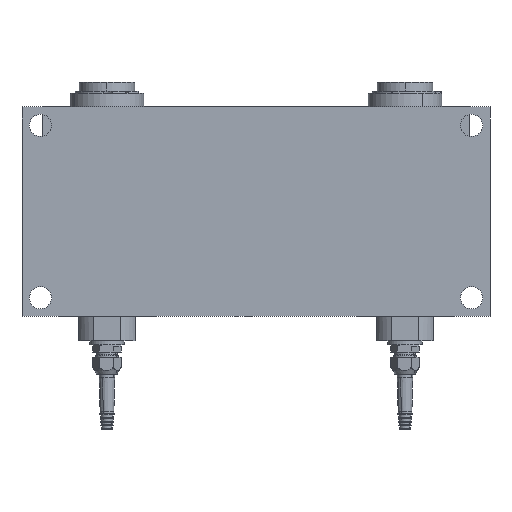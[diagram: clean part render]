
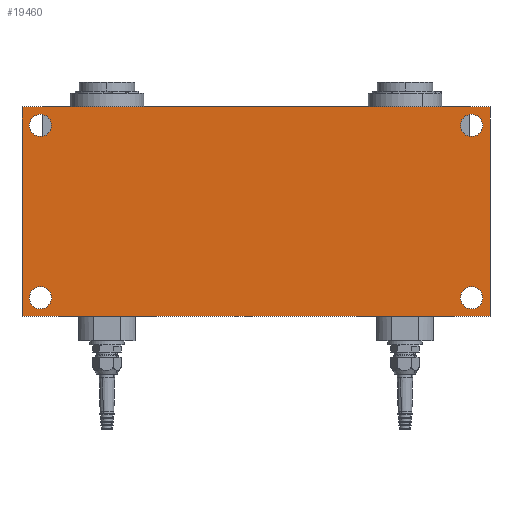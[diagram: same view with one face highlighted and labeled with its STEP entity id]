
A CAD part, front view. The second image highlights one B-rep face of the part: STEP entity #19460.
In plain terms, the highlighted planar face has unit normal (0, -1, 0).
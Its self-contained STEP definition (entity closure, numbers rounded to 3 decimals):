
#411 = EDGE_CURVE ( 'NONE', #8942, #29034, #16020, .T. ) ;
#781 = LINE ( 'NONE', #20734, #24433 ) ;
#1082 = CIRCLE ( 'NONE', #2392, 9. ) ;
#1117 = CARTESIAN_POINT ( 'NONE',  ( 175., 0., 79. ) ) ;
#1221 = DIRECTION ( 'NONE',  ( 0., 0., -1. ) ) ;
#1653 = EDGE_CURVE ( 'NONE', #22525, #22155, #29531, .T. ) ;
#1701 = CARTESIAN_POINT ( 'NONE',  ( -175., 0., -70. ) ) ;
#1737 = CARTESIAN_POINT ( 'NONE',  ( -175., 0., 70. ) ) ;
#2392 = AXIS2_PLACEMENT_3D ( 'NONE', #8078, #24110, #10362 ) ;
#3237 = EDGE_CURVE ( 'NONE', #23809, #27071, #5071, .T. ) ;
#3406 = EDGE_CURVE ( 'NONE', #13301, #10843, #781, .T. ) ;
#3579 = CARTESIAN_POINT ( 'NONE',  ( -175., 0., -70. ) ) ;
#4000 = DIRECTION ( 'NONE',  ( 0., 0., 1. ) ) ;
#4036 = DIRECTION ( 'NONE',  ( 0., 0., 1. ) ) ;
#4106 = EDGE_CURVE ( 'NONE', #20320, #21821, #22225, .T. ) ;
#4715 = AXIS2_PLACEMENT_3D ( 'NONE', #20004, #6305, #22302 ) ;
#4806 = EDGE_CURVE ( 'NONE', #27071, #23809, #1082, .T. ) ;
#4923 = CARTESIAN_POINT ( 'NONE',  ( 175., 0., -70. ) ) ;
#4980 = CARTESIAN_POINT ( 'NONE',  ( 0., 0., 0. ) ) ;
#4989 = ORIENTED_EDGE ( 'NONE', *, *, #26571, .T. ) ;
#5071 = CIRCLE ( 'NONE', #11523, 9. ) ;
#5493 = FACE_BOUND ( 'NONE', #6619, .T. ) ;
#5883 = DIRECTION ( 'NONE',  ( 0., 0., 1. ) ) ;
#5931 = CARTESIAN_POINT ( 'NONE',  ( 175., 0., 61. ) ) ;
#6305 = DIRECTION ( 'NONE',  ( 0., 1., 0. ) ) ;
#6337 = CARTESIAN_POINT ( 'NONE',  ( 175., 0., -70. ) ) ;
#6459 = VERTEX_POINT ( 'NONE', #19812 ) ;
#6537 = EDGE_CURVE ( 'NONE', #21821, #20320, #23067, .T. ) ;
#6619 = EDGE_LOOP ( 'NONE', ( #26424, #26763 ) ) ;
#6899 = CARTESIAN_POINT ( 'NONE',  ( 190., 0., 85. ) ) ;
#7009 = LINE ( 'NONE', #7491, #18464 ) ;
#7034 = DIRECTION ( 'NONE',  ( 1., 0., 0. ) ) ;
#7184 = EDGE_LOOP ( 'NONE', ( #9854, #11371, #18783, #8531 ) ) ;
#7241 = DIRECTION ( 'NONE',  ( 0., 0., 1. ) ) ;
#7304 = DIRECTION ( 'NONE',  ( 0., 0., 1. ) ) ;
#7321 = CIRCLE ( 'NONE', #7552, 9. ) ;
#7434 = LINE ( 'NONE', #23002, #12086 ) ;
#7491 = CARTESIAN_POINT ( 'NONE',  ( -190., 0., -85. ) ) ;
#7552 = AXIS2_PLACEMENT_3D ( 'NONE', #4923, #20931, #7241 ) ;
#7804 = EDGE_LOOP ( 'NONE', ( #27379, #9760 ) ) ;
#8078 = CARTESIAN_POINT ( 'NONE',  ( -175., 0., 70. ) ) ;
#8531 = ORIENTED_EDGE ( 'NONE', *, *, #3406, .F. ) ;
#8639 = DIRECTION ( 'NONE',  ( 0., 0., 1. ) ) ;
#8942 = VERTEX_POINT ( 'NONE', #23159 ) ;
#9032 = CARTESIAN_POINT ( 'NONE',  ( 175., 0., -61. ) ) ;
#9133 = AXIS2_PLACEMENT_3D ( 'NONE', #6337, #22333, #8639 ) ;
#9220 = EDGE_CURVE ( 'NONE', #10843, #11633, #25096, .T. ) ;
#9760 = ORIENTED_EDGE ( 'NONE', *, *, #22799, .T. ) ;
#9854 = ORIENTED_EDGE ( 'NONE', *, *, #25651, .F. ) ;
#10022 = CARTESIAN_POINT ( 'NONE',  ( -190., 0., 85. ) ) ;
#10144 = FACE_BOUND ( 'NONE', #7804, .T. ) ;
#10362 = DIRECTION ( 'NONE',  ( 0., 0., 1. ) ) ;
#10843 = VERTEX_POINT ( 'NONE', #6899 ) ;
#10874 = FACE_BOUND ( 'NONE', #27141, .T. ) ;
#11223 = DIRECTION ( 'NONE',  ( 0., 1., 0. ) ) ;
#11357 = CARTESIAN_POINT ( 'NONE',  ( -175., 0., 79. ) ) ;
#11371 = ORIENTED_EDGE ( 'NONE', *, *, #24214, .F. ) ;
#11523 = AXIS2_PLACEMENT_3D ( 'NONE', #1737, #17749, #4036 ) ;
#11633 = VERTEX_POINT ( 'NONE', #19035 ) ;
#12086 = VECTOR ( 'NONE', #27644, 1000. ) ;
#12103 = DIRECTION ( 'NONE',  ( 0., 0., 1. ) ) ;
#12181 = VECTOR ( 'NONE', #1221, 1000. ) ;
#12794 = EDGE_LOOP ( 'NONE', ( #27979, #16890 ) ) ;
#13301 = VERTEX_POINT ( 'NONE', #10022 ) ;
#14101 = PLANE ( 'NONE',  #19635 ) ;
#16020 = CIRCLE ( 'NONE', #9133, 9. ) ;
#16237 = FACE_BOUND ( 'NONE', #12794, .T. ) ;
#16436 = CIRCLE ( 'NONE', #19550, 9. ) ;
#16470 = ORIENTED_EDGE ( 'NONE', *, *, #411, .T. ) ;
#16890 = ORIENTED_EDGE ( 'NONE', *, *, #4106, .T. ) ;
#17714 = DIRECTION ( 'NONE',  ( 0., 1., 0. ) ) ;
#17749 = DIRECTION ( 'NONE',  ( 0., 1., 0. ) ) ;
#18464 = VECTOR ( 'NONE', #12103, 1000. ) ;
#18783 = ORIENTED_EDGE ( 'NONE', *, *, #9220, .F. ) ;
#19035 = CARTESIAN_POINT ( 'NONE',  ( 190., 0., -85. ) ) ;
#19460 = ADVANCED_FACE ( 'NONE', ( #5493, #16237, #28468, #10874, #10144 ), #14101, .F. ) ;
#19550 = AXIS2_PLACEMENT_3D ( 'NONE', #24941, #11223, #27251 ) ;
#19586 = DIRECTION ( 'NONE',  ( 0., 1., 0. ) ) ;
#19635 = AXIS2_PLACEMENT_3D ( 'NONE', #4980, #20994, #7304 ) ;
#19812 = CARTESIAN_POINT ( 'NONE',  ( -190., 0., -85. ) ) ;
#19847 = CARTESIAN_POINT ( 'NONE',  ( -175., 0., -79. ) ) ;
#20004 = CARTESIAN_POINT ( 'NONE',  ( 175., 0., 70. ) ) ;
#20320 = VERTEX_POINT ( 'NONE', #19847 ) ;
#20734 = CARTESIAN_POINT ( 'NONE',  ( -190., 0., 85. ) ) ;
#20931 = DIRECTION ( 'NONE',  ( 0., 1., 0. ) ) ;
#20994 = DIRECTION ( 'NONE',  ( 0., 1., 0. ) ) ;
#21821 = VERTEX_POINT ( 'NONE', #22781 ) ;
#22155 = VERTEX_POINT ( 'NONE', #5931 ) ;
#22225 = CIRCLE ( 'NONE', #25707, 9. ) ;
#22302 = DIRECTION ( 'NONE',  ( 0., 0., 1. ) ) ;
#22333 = DIRECTION ( 'NONE',  ( 0., 1., 0. ) ) ;
#22525 = VERTEX_POINT ( 'NONE', #1117 ) ;
#22781 = CARTESIAN_POINT ( 'NONE',  ( -175., 0., -61. ) ) ;
#22799 = EDGE_CURVE ( 'NONE', #22155, #22525, #16436, .T. ) ;
#23002 = CARTESIAN_POINT ( 'NONE',  ( -190., 0., -85. ) ) ;
#23067 = CIRCLE ( 'NONE', #24096, 9. ) ;
#23159 = CARTESIAN_POINT ( 'NONE',  ( 175., 0., -79. ) ) ;
#23809 = VERTEX_POINT ( 'NONE', #11357 ) ;
#24096 = AXIS2_PLACEMENT_3D ( 'NONE', #1701, #17714, #4000 ) ;
#24110 = DIRECTION ( 'NONE',  ( 0., 1., 0. ) ) ;
#24214 = EDGE_CURVE ( 'NONE', #11633, #6459, #7434, .T. ) ;
#24433 = VECTOR ( 'NONE', #7034, 1000. ) ;
#24941 = CARTESIAN_POINT ( 'NONE',  ( 175., 0., 70. ) ) ;
#25043 = CARTESIAN_POINT ( 'NONE',  ( -175., 0., 61. ) ) ;
#25096 = LINE ( 'NONE', #28691, #12181 ) ;
#25651 = EDGE_CURVE ( 'NONE', #6459, #13301, #7009, .T. ) ;
#25707 = AXIS2_PLACEMENT_3D ( 'NONE', #3579, #19586, #5883 ) ;
#26424 = ORIENTED_EDGE ( 'NONE', *, *, #3237, .T. ) ;
#26571 = EDGE_CURVE ( 'NONE', #29034, #8942, #7321, .T. ) ;
#26763 = ORIENTED_EDGE ( 'NONE', *, *, #4806, .T. ) ;
#27071 = VERTEX_POINT ( 'NONE', #25043 ) ;
#27141 = EDGE_LOOP ( 'NONE', ( #4989, #16470 ) ) ;
#27251 = DIRECTION ( 'NONE',  ( 0., 0., 1. ) ) ;
#27379 = ORIENTED_EDGE ( 'NONE', *, *, #1653, .T. ) ;
#27644 = DIRECTION ( 'NONE',  ( -1., 0., 0. ) ) ;
#27979 = ORIENTED_EDGE ( 'NONE', *, *, #6537, .T. ) ;
#28468 = FACE_OUTER_BOUND ( 'NONE', #7184, .T. ) ;
#28691 = CARTESIAN_POINT ( 'NONE',  ( 190., 0., -85. ) ) ;
#29034 = VERTEX_POINT ( 'NONE', #9032 ) ;
#29531 = CIRCLE ( 'NONE', #4715, 9. ) ;
